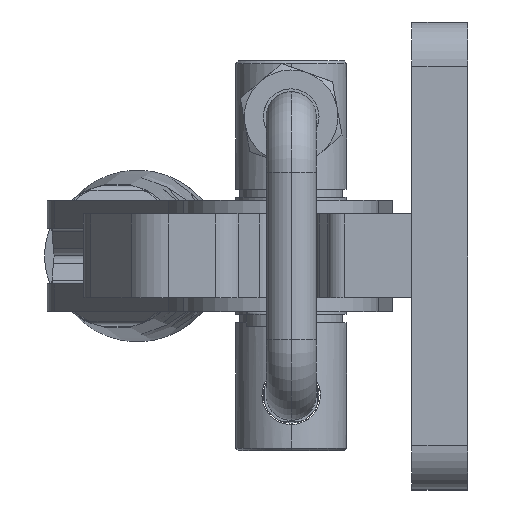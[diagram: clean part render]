
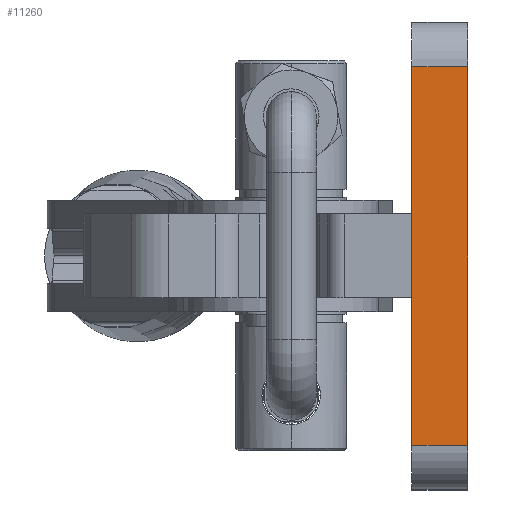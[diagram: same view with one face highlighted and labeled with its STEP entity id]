
A CAD part, left-side view. The second image highlights one B-rep face of the part: STEP entity #11260.
In plain terms, the highlighted planar face has unit normal (-1, 0, 0) as drawn and (1, 0, 0) by its records, which use the part's own axes.
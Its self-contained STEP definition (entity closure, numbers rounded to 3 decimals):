
#1760 = CARTESIAN_POINT ( 'NONE',  ( 31., 10., -42. ) ) ;
#2713 = VERTEX_POINT ( 'NONE', #12875 ) ;
#3158 = CARTESIAN_POINT ( 'NONE',  ( 31., 10., -34. ) ) ;
#3560 = CARTESIAN_POINT ( 'NONE',  ( 31., 10., -42. ) ) ;
#3637 = CARTESIAN_POINT ( 'NONE',  ( 31., 0., -42. ) ) ;
#4713 = VECTOR ( 'NONE', #24692, 1000. ) ;
#4954 = DIRECTION ( 'NONE',  ( 0., 1., 0. ) ) ;
#5913 = DIRECTION ( 'NONE',  ( 0., 0., -1. ) ) ;
#6138 = LINE ( 'NONE', #3637, #4713 ) ;
#6211 = LINE ( 'NONE', #3560, #15533 ) ;
#7129 = LINE ( 'NONE', #29126, #19617 ) ;
#8669 = EDGE_LOOP ( 'NONE', ( #20639, #25957, #27169, #12457 ) ) ;
#10100 = DIRECTION ( 'NONE',  ( 0., -1., 0. ) ) ;
#11260 = ADVANCED_FACE ( 'NONE', ( #13611 ), #23108, .F. ) ;
#11287 = DIRECTION ( 'NONE',  ( -1., 0., 0. ) ) ;
#12457 = ORIENTED_EDGE ( 'NONE', *, *, #27560, .T. ) ;
#12875 = CARTESIAN_POINT ( 'NONE',  ( 31., 0., -34. ) ) ;
#13611 = FACE_OUTER_BOUND ( 'NONE', #8669, .T. ) ;
#15408 = EDGE_CURVE ( 'NONE', #2713, #18643, #26175, .T. ) ;
#15533 = VECTOR ( 'NONE', #5913, 1000. ) ;
#16288 = DIRECTION ( 'NONE',  ( 0., 0., 1. ) ) ;
#16542 = VERTEX_POINT ( 'NONE', #17413 ) ;
#17413 = CARTESIAN_POINT ( 'NONE',  ( 31., 0., 34. ) ) ;
#18643 = VERTEX_POINT ( 'NONE', #3158 ) ;
#19617 = VECTOR ( 'NONE', #10100, 1000. ) ;
#20639 = ORIENTED_EDGE ( 'NONE', *, *, #22094, .T. ) ;
#21336 = CARTESIAN_POINT ( 'NONE',  ( 31., 10., -34. ) ) ;
#22094 = EDGE_CURVE ( 'NONE', #16542, #2713, #6138, .T. ) ;
#22597 = CARTESIAN_POINT ( 'NONE',  ( 31., 10., 34. ) ) ;
#23108 = PLANE ( 'NONE',  #24003 ) ;
#23845 = VERTEX_POINT ( 'NONE', #22597 ) ;
#24003 = AXIS2_PLACEMENT_3D ( 'NONE', #1760, #11287, #16288 ) ;
#24692 = DIRECTION ( 'NONE',  ( 0., 0., -1. ) ) ;
#24877 = VECTOR ( 'NONE', #4954, 1000. ) ;
#25957 = ORIENTED_EDGE ( 'NONE', *, *, #15408, .T. ) ;
#26175 = LINE ( 'NONE', #21336, #24877 ) ;
#27169 = ORIENTED_EDGE ( 'NONE', *, *, #30662, .F. ) ;
#27560 = EDGE_CURVE ( 'NONE', #23845, #16542, #7129, .T. ) ;
#29126 = CARTESIAN_POINT ( 'NONE',  ( 31., 10., 34. ) ) ;
#30662 = EDGE_CURVE ( 'NONE', #23845, #18643, #6211, .T. ) ;
